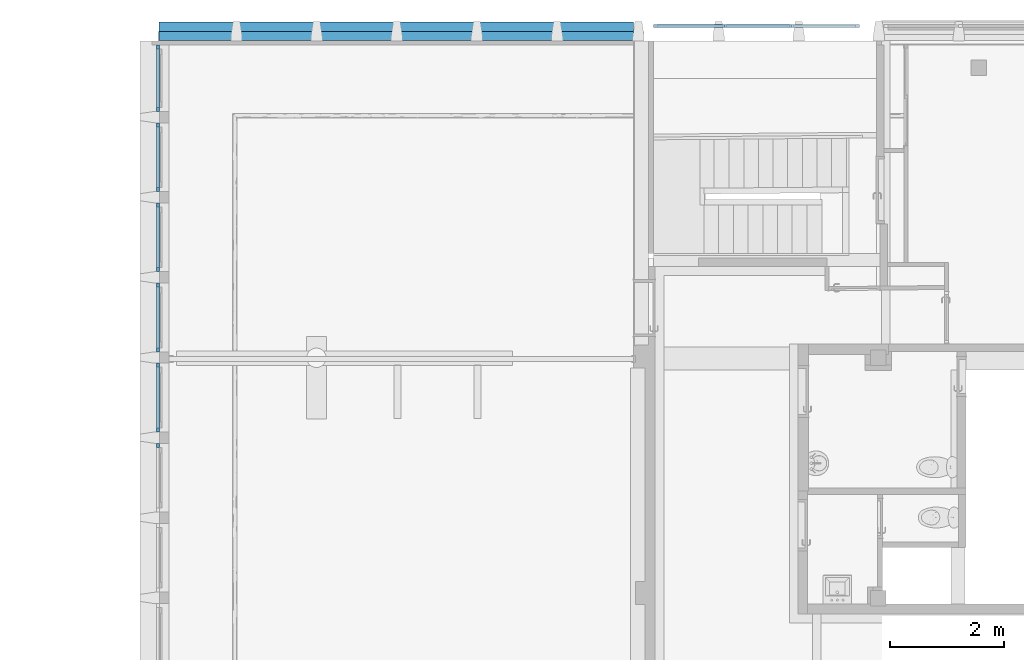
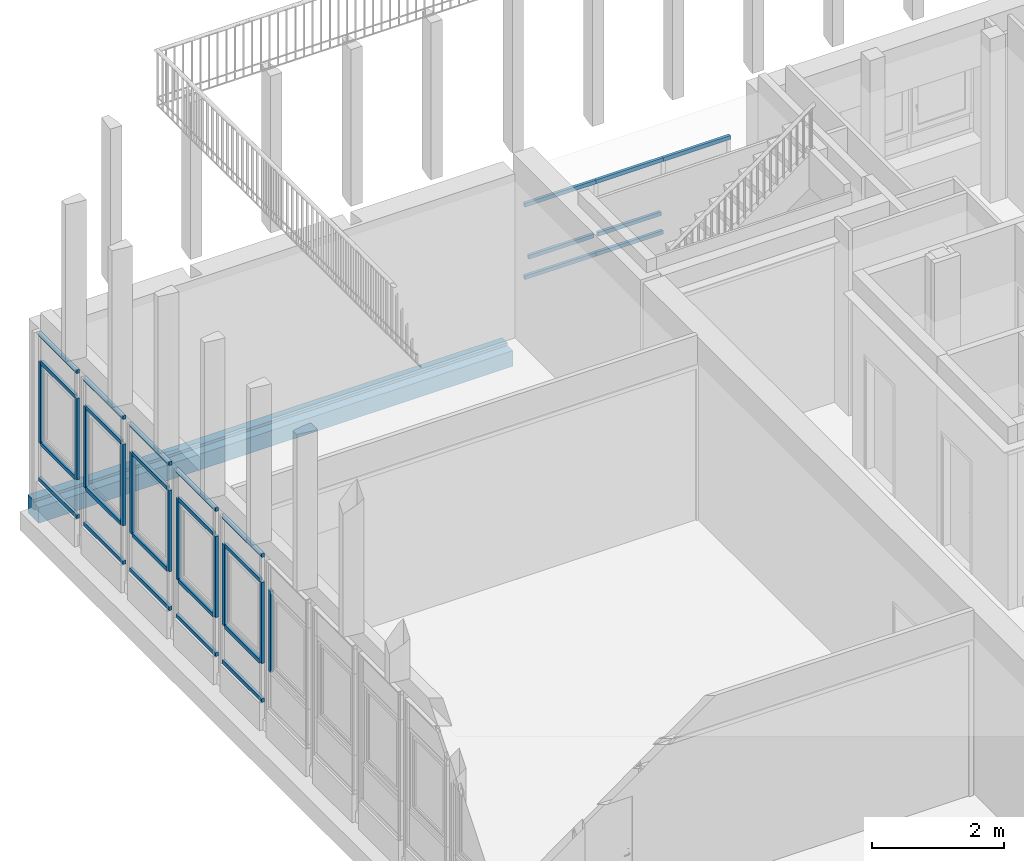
# One storey, part 8 of 65: 38 members, 1 beam, 7 elements without a shape of their own.
"""IFC4 building model written with IfcOpenShell, lengths in metres."""

from ifc_helpers import new_model, entity, si_unit, converted_unit, derived_unit, direction, frame, origin, place, context, subcontext, project, spatial, indexed_curve, outline, extrude, source, transform, mapped, material, type_object, type_shapes, element, aggregate, save


model = new_model("IFC4")

# Units and contexts
model_context = context("Model", 3, precision=1e-05, world=origin(), true_north=direction((6.12303176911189e-17, 1.0)))
body_context = subcontext(model_context, "Body", "Model", "MODEL_VIEW")
ifc_project = project(units=[si_unit("LENGTHUNIT", "METRE"), si_unit("AREAUNIT", "SQUARE_METRE"), si_unit("VOLUMEUNIT", "CUBIC_METRE"), converted_unit("PLANEANGLEUNIT", "DEGREE", entity("IfcRatioMeasure", 0.0174532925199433), si_unit("PLANEANGLEUNIT", "RADIAN"), dimensions=[0, 0, 0, 0, 0, 0, 0]), si_unit("MASSUNIT", "GRAM", prefix="KILO"), derived_unit("MASSDENSITYUNIT", [(si_unit("MASSUNIT", "GRAM", prefix="KILO"), 1), (si_unit("LENGTHUNIT", "METRE"), -3)]), derived_unit("MOMENTOFINERTIAUNIT", [(si_unit("LENGTHUNIT", "METRE"), 4)]), si_unit("TIMEUNIT", "SECOND"), si_unit("FREQUENCYUNIT", "HERTZ"), si_unit("THERMODYNAMICTEMPERATUREUNIT", "DEGREE_CELSIUS"), derived_unit("THERMALTRANSMITTANCEUNIT", [(si_unit("MASSUNIT", "GRAM", prefix="KILO"), 1), (si_unit("THERMODYNAMICTEMPERATUREUNIT", "KELVIN"), -1), (si_unit("TIMEUNIT", "SECOND"), -3)]), derived_unit("VOLUMETRICFLOWRATEUNIT", [(si_unit("LENGTHUNIT", "METRE"), 3), (si_unit("TIMEUNIT", "SECOND"), -1)]), si_unit("ELECTRICCURRENTUNIT", "AMPERE"), si_unit("ELECTRICVOLTAGEUNIT", "VOLT"), si_unit("POWERUNIT", "WATT"), si_unit("FORCEUNIT", "NEWTON", prefix="KILO"), si_unit("ILLUMINANCEUNIT", "LUX"), si_unit("LUMINOUSFLUXUNIT", "LUMEN"), si_unit("LUMINOUSINTENSITYUNIT", "CANDELA"), derived_unit("USERDEFINED", [(si_unit("MASSUNIT", "GRAM", prefix="KILO"), -1), (si_unit("LENGTHUNIT", "METRE"), -2), (si_unit("TIMEUNIT", "SECOND"), 3), (si_unit("LUMINOUSFLUXUNIT", "LUMEN"), 1)]), derived_unit("LINEARVELOCITYUNIT", [(si_unit("LENGTHUNIT", "METRE"), 1), (si_unit("TIMEUNIT", "SECOND"), -1)]), si_unit("PRESSUREUNIT", "PASCAL"), derived_unit("USERDEFINED", [(si_unit("LENGTHUNIT", "METRE"), -2), (si_unit("MASSUNIT", "GRAM", prefix="KILO"), 1), (si_unit("TIMEUNIT", "SECOND"), -2)]), derived_unit("LINEARFORCEUNIT", [(si_unit("MASSUNIT", "GRAM", prefix="KILO"), 1), (si_unit("LENGTHUNIT", "METRE"), 1), (si_unit("TIMEUNIT", "SECOND"), -2), (si_unit("LENGTHUNIT", "METRE"), -1)]), derived_unit("PLANARFORCEUNIT", [(si_unit("MASSUNIT", "GRAM", prefix="KILO"), 1), (si_unit("LENGTHUNIT", "METRE"), 1), (si_unit("TIMEUNIT", "SECOND"), -2), (si_unit("LENGTHUNIT", "METRE"), -2)])], contexts=[model_context])

# Site, building, storey
site_placement = place(None, origin())
site = spatial("IfcSite", under=ifc_project, at=site_placement, Name="Default", CompositionType="ELEMENT")
building_placement = place(site_placement, origin())
building = spatial("IfcBuilding", under=site, at=building_placement, Name="HOTEL CONSULAIRE BOULOGNE SUR MER", CompositionType="ELEMENT")
storey_placement = place(building_placement, origin())
storey = spatial("IfcBuildingStorey", under=building, at=storey_placement, Name="Niveau 0", CompositionType="ELEMENT", Elevation=1.31981936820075e-13)

# Curtain wall, member
curtain_wall_type = type_object("IfcCurtainWallType", Name="Mur-rideau:Simple panneau", PredefinedType="NOTDEFINED")
curtain_wall_1_placement = place(storey_placement, origin())
curtain_wall_1 = element("IfcCurtainWall", 1, at=curtain_wall_1_placement, inside=storey, type_object=curtain_wall_type, Name="Mur-rideau:Simple panneau", ObjectType="Mur-rideau:Simple panneau", PredefinedType="NOTDEFINED")
ifc_material_1 = material(Name="PVC - Blanc", Category="Plastique")
member_type_1 = type_object("IfcMemberType", Name="Meneau rectangulaire:50 x 35", PredefinedType="MULLION", material=ifc_material_1)
shared_shape_1 = source(origin(), body_context, "Body", "SweptSolid", [
    extrude(outline(indexed_curve([(-0.025, -0.035), (0.025, -0.035), (0.025, 0.035), (-0.025, 0.035), (-0.025, -0.035)], self_intersect=False)), frame((-0.035, -0.025, -1.504), z_axis=(0.0, 0.0, 1.0), x_axis=(0.0, -1.0, 0.0)), (0.0, 0.0, 1.0), 1.504),
])
type_shapes(member_type_1, [shared_shape_1])
member_1_placement = place(storey_placement, frame((-13.7900998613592, -17.1114499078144, 1.0069999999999), z_axis=(0.0, 0.0, -1.0), x_axis=(0.0, 1.0, 0.0)))
member_1 = element("IfcMember", 2, at=member_1_placement, type_object=member_type_1, material=ifc_material_1, Name="Meneau rectangulaire:50 x 35", ObjectType="Meneau rectangulaire:50 x 35", PredefinedType="MULLION", context=body_context, shape_type="MappedRepresentation", body=[
    mapped(shared_shape_1, transform((0.0, 0.0, 0.0), scale=1.0)),
])
aggregate(curtain_wall_1, [member_1])

curtain_wall_2_placement = place(storey_placement, origin())
curtain_wall_2 = element("IfcCurtainWall", 3, at=curtain_wall_2_placement, inside=storey, type_object=curtain_wall_type, Name="Mur-rideau:Simple panneau", ObjectType="Mur-rideau:Simple panneau", PredefinedType="NOTDEFINED")
member_2_placement = place(storey_placement, frame((-13.7900998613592, -15.7114499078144, 1.0069999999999), z_axis=(0.0, 0.0, -1.0), x_axis=(0.0, 1.0, 0.0)))
member_2 = element("IfcMember", 4, at=member_2_placement, type_object=member_type_1, material=ifc_material_1, Name="Meneau rectangulaire:50 x 35", ObjectType="Meneau rectangulaire:50 x 35", PredefinedType="MULLION", context=body_context, shape_type="MappedRepresentation", body=[
    mapped(shared_shape_1, transform((0.0, 0.0, 0.0), scale=1.0)),
])

curtain_wall_3_placement = place(storey_placement, origin())
curtain_wall_3 = element("IfcCurtainWall", 5, at=curtain_wall_3_placement, inside=storey, type_object=curtain_wall_type, Name="Mur-rideau:Simple panneau", ObjectType="Mur-rideau:Simple panneau", PredefinedType="NOTDEFINED")
member_3_placement = place(storey_placement, frame((-13.7900998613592, -14.3114499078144, 1.0069999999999), z_axis=(0.0, 0.0, -1.0), x_axis=(0.0, 1.0, 0.0)))
member_3 = element("IfcMember", 6, at=member_3_placement, type_object=member_type_1, material=ifc_material_1, Name="Meneau rectangulaire:50 x 35", ObjectType="Meneau rectangulaire:50 x 35", PredefinedType="MULLION", context=body_context, shape_type="MappedRepresentation", body=[
    mapped(shared_shape_1, transform((0.0, 0.0, 0.0), scale=1.0)),
])

curtain_wall_4_placement = place(storey_placement, origin())
curtain_wall_4 = element("IfcCurtainWall", 7, at=curtain_wall_4_placement, inside=storey, type_object=curtain_wall_type, Name="Mur-rideau:Simple panneau", ObjectType="Mur-rideau:Simple panneau", PredefinedType="NOTDEFINED")
member_4_placement = place(storey_placement, frame((-13.7900998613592, -12.9114499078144, 1.0069999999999), z_axis=(0.0, 0.0, -1.0), x_axis=(0.0, 1.0, 0.0)))
member_4 = element("IfcMember", 8, at=member_4_placement, type_object=member_type_1, material=ifc_material_1, Name="Meneau rectangulaire:50 x 35", ObjectType="Meneau rectangulaire:50 x 35", PredefinedType="MULLION", context=body_context, shape_type="MappedRepresentation", body=[
    mapped(shared_shape_1, transform((0.0, 0.0, 0.0), scale=1.0)),
])

curtain_wall_5_placement = place(storey_placement, origin())
curtain_wall_5 = element("IfcCurtainWall", 9, at=curtain_wall_5_placement, inside=storey, type_object=curtain_wall_type, Name="Mur-rideau:Simple panneau", ObjectType="Mur-rideau:Simple panneau", PredefinedType="NOTDEFINED")
member_5_placement = place(storey_placement, frame((-13.7900998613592, -11.5114499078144, 1.0069999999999), z_axis=(0.0, 0.0, -1.0), x_axis=(0.0, 1.0, 0.0)))
member_5 = element("IfcMember", 10, at=member_5_placement, type_object=member_type_1, material=ifc_material_1, Name="Meneau rectangulaire:50 x 35", ObjectType="Meneau rectangulaire:50 x 35", PredefinedType="MULLION", context=body_context, shape_type="MappedRepresentation", body=[
    mapped(shared_shape_1, transform((0.0, 0.0, 0.0), scale=1.0)),
])

curtain_wall_6_placement = place(storey_placement, origin())
curtain_wall_6 = element("IfcCurtainWall", 11, at=curtain_wall_6_placement, inside=storey, type_object=curtain_wall_type, Name="Mur-rideau:Simple panneau", ObjectType="Mur-rideau:Simple panneau", PredefinedType="NOTDEFINED")
member_6_placement = place(storey_placement, frame((-13.7900998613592, -10.1503241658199, 1.0069999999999), z_axis=(0.0, 0.0, -1.0), x_axis=(0.0, 1.0, 0.0)))
member_6 = element("IfcMember", 12, at=member_6_placement, type_object=member_type_1, material=ifc_material_1, Name="Meneau rectangulaire:50 x 35", ObjectType="Meneau rectangulaire:50 x 35", PredefinedType="MULLION", context=body_context, shape_type="MappedRepresentation", body=[
    mapped(shared_shape_1, transform((0.0, 0.0, 0.0), scale=1.0)),
])

# Member
member_type_2 = type_object("IfcMemberType", Name="Meneau rectangulaire:50 x 35", PredefinedType="MULLION", material=ifc_material_1)
shared_shape_2 = source(origin(), body_context, "Body", "SweptSolid", [
    extrude(outline(indexed_curve([(-0.025, -0.035), (0.025, -0.035), (0.025, 0.035), (-0.025, 0.035), (-0.025, -0.035)], self_intersect=False)), frame((-0.035, -0.025, -1.504), z_axis=(0.0, 0.0, 1.0), x_axis=(0.0, -1.0, 0.0)), (0.0, 0.0, 1.0), 1.504),
])
type_shapes(member_type_2, [shared_shape_2])
member_7_placement = place(storey_placement, frame((-13.7900998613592, -16.9114499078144, 2.5109999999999), z_axis=(0.0, 0.0, 1.0), x_axis=(0.0, -1.0, 0.0)))
member_7 = element("IfcMember", 13, at=member_7_placement, type_object=member_type_2, material=ifc_material_1, Name="Meneau rectangulaire:50 x 35", ObjectType="Meneau rectangulaire:50 x 35", PredefinedType="MULLION", context=body_context, shape_type="MappedRepresentation", body=[
    mapped(shared_shape_2, transform((0.0, 0.0, 0.0), scale=1.0)),
])

member_8_placement = place(storey_placement, frame((-13.7900998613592, -15.5114499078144, 2.5109999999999), z_axis=(0.0, 0.0, 1.0), x_axis=(0.0, -1.0, 0.0)))
member_8 = element("IfcMember", 14, at=member_8_placement, type_object=member_type_2, material=ifc_material_1, Name="Meneau rectangulaire:50 x 35", ObjectType="Meneau rectangulaire:50 x 35", PredefinedType="MULLION", context=body_context, shape_type="MappedRepresentation", body=[
    mapped(shared_shape_2, transform((0.0, 0.0, 0.0), scale=1.0)),
])

member_9_placement = place(storey_placement, frame((-13.7900998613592, -14.1114499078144, 2.5109999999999), z_axis=(0.0, 0.0, 1.0), x_axis=(0.0, -1.0, 0.0)))
member_9 = element("IfcMember", 15, at=member_9_placement, type_object=member_type_2, material=ifc_material_1, Name="Meneau rectangulaire:50 x 35", ObjectType="Meneau rectangulaire:50 x 35", PredefinedType="MULLION", context=body_context, shape_type="MappedRepresentation", body=[
    mapped(shared_shape_2, transform((0.0, 0.0, 0.0), scale=1.0)),
])

member_10_placement = place(storey_placement, frame((-13.7900998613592, -12.7114499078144, 2.5109999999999), z_axis=(0.0, 0.0, 1.0), x_axis=(0.0, -1.0, 0.0)))
member_10 = element("IfcMember", 16, at=member_10_placement, type_object=member_type_2, material=ifc_material_1, Name="Meneau rectangulaire:50 x 35", ObjectType="Meneau rectangulaire:50 x 35", PredefinedType="MULLION", context=body_context, shape_type="MappedRepresentation", body=[
    mapped(shared_shape_2, transform((0.0, 0.0, 0.0), scale=1.0)),
])

member_11_placement = place(storey_placement, frame((-13.7900998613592, -11.3114499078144, 2.5109999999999), z_axis=(0.0, 0.0, 1.0), x_axis=(0.0, -1.0, 0.0)))
member_11 = element("IfcMember", 17, at=member_11_placement, type_object=member_type_2, material=ifc_material_1, Name="Meneau rectangulaire:50 x 35", ObjectType="Meneau rectangulaire:50 x 35", PredefinedType="MULLION", context=body_context, shape_type="MappedRepresentation", body=[
    mapped(shared_shape_2, transform((0.0, 0.0, 0.0), scale=1.0)),
])

member_type_3 = type_object("IfcMemberType", Name="Meneau rectangulaire:50 x 35", PredefinedType="MULLION", material=ifc_material_1)
shared_shape_3 = source(origin(), body_context, "Body", "SweptSolid", [
    extrude(outline(indexed_curve([(-0.025, -0.035), (0.025, -0.035), (0.025, 0.035), (-0.025, 0.035), (-0.025, -0.035)], self_intersect=False)), frame((-0.035, -0.025, -1.20000000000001), z_axis=(0.0, 0.0, 1.0), x_axis=(0.0, -1.0, 0.0)), (0.0, 0.0, 1.0), 1.20000000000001),
])
type_shapes(member_type_3, [shared_shape_3])
member_12_placement = place(storey_placement, frame((-13.7900998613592, -15.7114499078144, 3.03999999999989), z_axis=(0.0, 1.0, 0.0), x_axis=(0.0, 0.0, 1.0)))
member_12 = element("IfcMember", 18, at=member_12_placement, type_object=member_type_3, material=ifc_material_1, Name="Meneau rectangulaire:50 x 35", ObjectType="Meneau rectangulaire:50 x 35", PredefinedType="MULLION", context=body_context, shape_type="MappedRepresentation", body=[
    mapped(shared_shape_3, transform((0.0, 0.0, 0.0), scale=1.0)),
])

member_13_placement = place(storey_placement, frame((-13.7900998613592, -14.3114499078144, 3.03999999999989), z_axis=(0.0, 1.0, 0.0), x_axis=(0.0, 0.0, 1.0)))
member_13 = element("IfcMember", 19, at=member_13_placement, type_object=member_type_3, material=ifc_material_1, Name="Meneau rectangulaire:50 x 35", ObjectType="Meneau rectangulaire:50 x 35", PredefinedType="MULLION", context=body_context, shape_type="MappedRepresentation", body=[
    mapped(shared_shape_3, transform((0.0, 0.0, 0.0), scale=1.0)),
])

member_14_placement = place(storey_placement, frame((-13.7900998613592, -12.9114499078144, 3.03999999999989), z_axis=(0.0, 1.0, 0.0), x_axis=(0.0, 0.0, 1.0)))
member_14 = element("IfcMember", 20, at=member_14_placement, type_object=member_type_3, material=ifc_material_1, Name="Meneau rectangulaire:50 x 35", ObjectType="Meneau rectangulaire:50 x 35", PredefinedType="MULLION", context=body_context, shape_type="MappedRepresentation", body=[
    mapped(shared_shape_3, transform((0.0, 0.0, 0.0), scale=1.0)),
])

member_15_placement = place(storey_placement, frame((-13.7900998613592, -11.5114499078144, 3.03999999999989), z_axis=(0.0, 1.0, 0.0), x_axis=(0.0, 0.0, 1.0)))
member_15 = element("IfcMember", 21, at=member_15_placement, type_object=member_type_3, material=ifc_material_1, Name="Meneau rectangulaire:50 x 35", ObjectType="Meneau rectangulaire:50 x 35", PredefinedType="MULLION", context=body_context, shape_type="MappedRepresentation", body=[
    mapped(shared_shape_3, transform((0.0, 0.0, 0.0), scale=1.0)),
])

member_type_4 = type_object("IfcMemberType", Name="Meneau rectangulaire:50 x 35", PredefinedType="MULLION", material=ifc_material_1)
shared_shape_4 = source(origin(), body_context, "Body", "SweptSolid", [
    extrude(outline(indexed_curve([(-0.025, -0.035), (0.025, -0.035), (0.025, 0.035), (-0.025, 0.035), (-0.025, -0.035)], self_intersect=False)), frame((-0.035, -0.025, -1.20000000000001), z_axis=(0.0, 0.0, 1.0), x_axis=(0.0, -1.0, 0.0)), (0.0, 0.0, 1.0), 1.20000000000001),
])
type_shapes(member_type_4, [shared_shape_4])
member_16_placement = place(storey_placement, frame((-13.7900998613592, -16.9114499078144, 0.289999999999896), z_axis=(0.0, -1.0, 0.0), x_axis=(0.0, 0.0, -1.0)))
member_16 = element("IfcMember", 22, at=member_16_placement, type_object=member_type_4, material=ifc_material_1, Name="Meneau rectangulaire:50 x 35", ObjectType="Meneau rectangulaire:50 x 35", PredefinedType="MULLION", context=body_context, shape_type="MappedRepresentation", body=[
    mapped(shared_shape_4, transform((0.0, 0.0, 0.0), scale=1.0)),
])

member_17_placement = place(storey_placement, frame((-13.7900998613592, -15.5114499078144, 0.289999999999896), z_axis=(0.0, -1.0, 0.0), x_axis=(0.0, 0.0, -1.0)))
member_17 = element("IfcMember", 23, at=member_17_placement, type_object=member_type_4, material=ifc_material_1, Name="Meneau rectangulaire:50 x 35", ObjectType="Meneau rectangulaire:50 x 35", PredefinedType="MULLION", context=body_context, shape_type="MappedRepresentation", body=[
    mapped(shared_shape_4, transform((0.0, 0.0, 0.0), scale=1.0)),
])

member_18_placement = place(storey_placement, frame((-13.7900998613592, -14.1114499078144, 0.289999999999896), z_axis=(0.0, -1.0, 0.0), x_axis=(0.0, 0.0, -1.0)))
member_18 = element("IfcMember", 24, at=member_18_placement, type_object=member_type_4, material=ifc_material_1, Name="Meneau rectangulaire:50 x 35", ObjectType="Meneau rectangulaire:50 x 35", PredefinedType="MULLION", context=body_context, shape_type="MappedRepresentation", body=[
    mapped(shared_shape_4, transform((0.0, 0.0, 0.0), scale=1.0)),
])

member_19_placement = place(storey_placement, frame((-13.7900998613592, -12.7114499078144, 0.289999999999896), z_axis=(0.0, -1.0, 0.0), x_axis=(0.0, 0.0, -1.0)))
member_19 = element("IfcMember", 25, at=member_19_placement, type_object=member_type_4, material=ifc_material_1, Name="Meneau rectangulaire:50 x 35", ObjectType="Meneau rectangulaire:50 x 35", PredefinedType="MULLION", context=body_context, shape_type="MappedRepresentation", body=[
    mapped(shared_shape_4, transform((0.0, 0.0, 0.0), scale=1.0)),
])

member_type_5 = type_object("IfcMemberType", Name="Meneau rectangulaire:50 x 35", PredefinedType="MULLION", material=ifc_material_1)
shared_shape_5 = source(origin(), body_context, "Body", "SweptSolid", [
    extrude(outline(indexed_curve([(-0.025, -0.035), (0.025, -0.035), (0.025, 0.035), (-0.025, 0.035), (-0.025, -0.035)], self_intersect=False)), frame((0.0, -0.025, -1.06000000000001), z_axis=(0.0, 0.0, 1.0), x_axis=(0.0, -1.0, 0.0)), (0.0, 0.0, 1.0), 1.06000000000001),
])
type_shapes(member_type_5, [shared_shape_5])
member_20_placement = place(storey_placement, frame((-13.7900998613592, -15.7814499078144, 1.0069999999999), z_axis=(0.0, 1.0, 0.0), x_axis=(0.0, 0.0, 1.0)))
member_20 = element("IfcMember", 26, at=member_20_placement, type_object=member_type_5, material=ifc_material_1, Name="Meneau rectangulaire:50 x 35", ObjectType="Meneau rectangulaire:50 x 35", PredefinedType="MULLION", context=body_context, shape_type="MappedRepresentation", body=[
    mapped(shared_shape_5, transform((0.0, 0.0, 0.0), scale=1.0)),
])

member_21_placement = place(storey_placement, frame((-13.7900998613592, -15.7814499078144, 2.5109999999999), z_axis=(0.0, 1.0, 0.0), x_axis=(0.0, 0.0, 1.0)))
member_21 = element("IfcMember", 27, at=member_21_placement, type_object=member_type_5, material=ifc_material_1, Name="Meneau rectangulaire:50 x 35", ObjectType="Meneau rectangulaire:50 x 35", PredefinedType="MULLION", context=body_context, shape_type="MappedRepresentation", body=[
    mapped(shared_shape_5, transform((0.0, 0.0, 0.0), scale=1.0)),
])

aggregate(curtain_wall_2, [member_12, member_16, member_20, member_21, member_2, member_7])

member_22_placement = place(storey_placement, frame((-13.7900998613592, -14.3814499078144, 1.0069999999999), z_axis=(0.0, 1.0, 0.0), x_axis=(0.0, 0.0, 1.0)))
member_22 = element("IfcMember", 28, at=member_22_placement, type_object=member_type_5, material=ifc_material_1, Name="Meneau rectangulaire:50 x 35", ObjectType="Meneau rectangulaire:50 x 35", PredefinedType="MULLION", context=body_context, shape_type="MappedRepresentation", body=[
    mapped(shared_shape_5, transform((0.0, 0.0, 0.0), scale=1.0)),
])

member_23_placement = place(storey_placement, frame((-13.7900998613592, -14.3814499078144, 2.5109999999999), z_axis=(0.0, 1.0, 0.0), x_axis=(0.0, 0.0, 1.0)))
member_23 = element("IfcMember", 29, at=member_23_placement, type_object=member_type_5, material=ifc_material_1, Name="Meneau rectangulaire:50 x 35", ObjectType="Meneau rectangulaire:50 x 35", PredefinedType="MULLION", context=body_context, shape_type="MappedRepresentation", body=[
    mapped(shared_shape_5, transform((0.0, 0.0, 0.0), scale=1.0)),
])

aggregate(curtain_wall_3, [member_13, member_17, member_22, member_23, member_3, member_8])

member_24_placement = place(storey_placement, frame((-13.7900998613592, -12.9814499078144, 1.0069999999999), z_axis=(0.0, 1.0, 0.0), x_axis=(0.0, 0.0, 1.0)))
member_24 = element("IfcMember", 30, at=member_24_placement, type_object=member_type_5, material=ifc_material_1, Name="Meneau rectangulaire:50 x 35", ObjectType="Meneau rectangulaire:50 x 35", PredefinedType="MULLION", context=body_context, shape_type="MappedRepresentation", body=[
    mapped(shared_shape_5, transform((0.0, 0.0, 0.0), scale=1.0)),
])

member_25_placement = place(storey_placement, frame((-13.7900998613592, -12.9814499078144, 2.5109999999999), z_axis=(0.0, 1.0, 0.0), x_axis=(0.0, 0.0, 1.0)))
member_25 = element("IfcMember", 31, at=member_25_placement, type_object=member_type_5, material=ifc_material_1, Name="Meneau rectangulaire:50 x 35", ObjectType="Meneau rectangulaire:50 x 35", PredefinedType="MULLION", context=body_context, shape_type="MappedRepresentation", body=[
    mapped(shared_shape_5, transform((0.0, 0.0, 0.0), scale=1.0)),
])

aggregate(curtain_wall_4, [member_14, member_18, member_24, member_25, member_4, member_9])

member_26_placement = place(storey_placement, frame((-13.7900998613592, -11.5814499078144, 1.0069999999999), z_axis=(0.0, 1.0, 0.0), x_axis=(0.0, 0.0, 1.0)))
member_26 = element("IfcMember", 32, at=member_26_placement, type_object=member_type_5, material=ifc_material_1, Name="Meneau rectangulaire:50 x 35", ObjectType="Meneau rectangulaire:50 x 35", PredefinedType="MULLION", context=body_context, shape_type="MappedRepresentation", body=[
    mapped(shared_shape_5, transform((0.0, 0.0, 0.0), scale=1.0)),
])

member_27_placement = place(storey_placement, frame((-13.7900998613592, -11.5814499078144, 2.5109999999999), z_axis=(0.0, 1.0, 0.0), x_axis=(0.0, 0.0, 1.0)))
member_27 = element("IfcMember", 33, at=member_27_placement, type_object=member_type_5, material=ifc_material_1, Name="Meneau rectangulaire:50 x 35", ObjectType="Meneau rectangulaire:50 x 35", PredefinedType="MULLION", context=body_context, shape_type="MappedRepresentation", body=[
    mapped(shared_shape_5, transform((0.0, 0.0, 0.0), scale=1.0)),
])

aggregate(curtain_wall_5, [member_15, member_19, member_26, member_27, member_5, member_10])

member_type_6 = type_object("IfcMemberType", Name="Meneau rectangulaire:50 x 35", PredefinedType="MULLION", material=ifc_material_1)
shared_shape_6 = source(origin(), body_context, "Body", "SweptSolid", [
    extrude(outline(indexed_curve([(-0.025, -0.035), (0.025, -0.035), (0.025, 0.035), (-0.025, 0.035), (-0.025, -0.035)], self_intersect=False)), frame((-0.035, -0.025, -1.16112574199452), z_axis=(0.0, 0.0, 1.0), x_axis=(0.0, -1.0, 0.0)), (0.0, 0.0, 1.0), 1.16112574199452),
])
type_shapes(member_type_6, [shared_shape_6])
member_28_placement = place(storey_placement, frame((-13.7900998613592, -10.1503241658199, 3.03999999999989), z_axis=(0.0, 1.0, 0.0), x_axis=(0.0, 0.0, 1.0)))
member_28 = element("IfcMember", 34, at=member_28_placement, type_object=member_type_6, material=ifc_material_1, Name="Meneau rectangulaire:50 x 35", ObjectType="Meneau rectangulaire:50 x 35", PredefinedType="MULLION", context=body_context, shape_type="MappedRepresentation", body=[
    mapped(shared_shape_6, transform((0.0, 0.0, 0.0), scale=1.0)),
])

member_type_7 = type_object("IfcMemberType", Name="Meneau rectangulaire:50 x 35", PredefinedType="MULLION", material=ifc_material_1)
shared_shape_7 = source(origin(), body_context, "Body", "SweptSolid", [
    extrude(outline(indexed_curve([(-0.025, -0.035), (0.025, -0.035), (0.025, 0.035), (-0.025, 0.035), (-0.025, -0.035)], self_intersect=False)), frame((-0.035, -0.025, -1.16112574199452), z_axis=(0.0, 0.0, 1.0), x_axis=(0.0, -1.0, 0.0)), (0.0, 0.0, 1.0), 1.16112574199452),
])
type_shapes(member_type_7, [shared_shape_7])
member_29_placement = place(storey_placement, frame((-13.7900998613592, -11.3114499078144, 0.289999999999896), z_axis=(0.0, -1.0, 0.0), x_axis=(0.0, 0.0, -1.0)))
member_29 = element("IfcMember", 35, at=member_29_placement, type_object=member_type_7, material=ifc_material_1, Name="Meneau rectangulaire:50 x 35", ObjectType="Meneau rectangulaire:50 x 35", PredefinedType="MULLION", context=body_context, shape_type="MappedRepresentation", body=[
    mapped(shared_shape_7, transform((0.0, 0.0, 0.0), scale=1.0)),
])

member_type_8 = type_object("IfcMemberType", Name="Meneau rectangulaire:50 x 35", PredefinedType="MULLION", material=ifc_material_1)
shared_shape_8 = source(origin(), body_context, "Body", "SweptSolid", [
    extrude(outline(indexed_curve([(-0.025, -0.035), (0.025, -0.035), (0.025, 0.035), (-0.025, 0.035), (-0.025, -0.035)], self_intersect=False)), frame((0.0, -0.025, -1.02112574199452), z_axis=(0.0, 0.0, 1.0), x_axis=(0.0, -1.0, 0.0)), (0.0, 0.0, 1.0), 1.02112574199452),
])
type_shapes(member_type_8, [shared_shape_8])
member_30_placement = place(storey_placement, frame((-13.7900998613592, -10.2203241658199, 1.0069999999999), z_axis=(0.0, 1.0, 0.0), x_axis=(0.0, 0.0, 1.0)))
member_30 = element("IfcMember", 36, at=member_30_placement, type_object=member_type_8, material=ifc_material_1, Name="Meneau rectangulaire:50 x 35", ObjectType="Meneau rectangulaire:50 x 35", PredefinedType="MULLION", context=body_context, shape_type="MappedRepresentation", body=[
    mapped(shared_shape_8, transform((0.0, 0.0, 0.0), scale=1.0)),
])

member_31_placement = place(storey_placement, frame((-13.7900998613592, -10.2203241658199, 2.5109999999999), z_axis=(0.0, 1.0, 0.0), x_axis=(0.0, 0.0, 1.0)))
member_31 = element("IfcMember", 37, at=member_31_placement, type_object=member_type_8, material=ifc_material_1, Name="Meneau rectangulaire:50 x 35", ObjectType="Meneau rectangulaire:50 x 35", PredefinedType="MULLION", context=body_context, shape_type="MappedRepresentation", body=[
    mapped(shared_shape_8, transform((0.0, 0.0, 0.0), scale=1.0)),
])

aggregate(curtain_wall_6, [member_28, member_29, member_30, member_31, member_6, member_11])

# Beam
ifc_material_2 = material(Name="Béton - Béton coulé sur place", Category="Béton")
beam_type = type_object("IfcBeamType", Name="Poutre rectangulaire - Béton:320x340", PredefinedType="BEAM", material=ifc_material_2)
shared_shape_9 = source(origin(), body_context, "Body", "SweptSolid", [
    extrude(outline(indexed_curve([(-0.0800000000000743, -0.159999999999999), (0.210000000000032, -0.159999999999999), (0.210000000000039, 0.16), (-0.129999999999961, 0.160000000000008), (-0.129999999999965, 7.24400769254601e-15), (-0.0800000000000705, 6.12380031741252e-15), (-0.0800000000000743, -0.159999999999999)], self_intersect=False)), frame((-13.7939806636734, -9.91463235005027, -0.349999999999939), z_axis=(1.0, 0.0, 0.0), x_axis=(0.0, 0.0, -1.0)), (0.0, 0.0, 1.0), 8.29),
])
type_shapes(beam_type, [shared_shape_9])
beam_placement = place(storey_placement, origin())
element("IfcBeam", 38, at=beam_placement, inside=storey, type_object=beam_type, material=ifc_material_2, Name="Poutre rectangulaire - Béton:320x340", ObjectType="Poutre rectangulaire - Béton:320x340", PredefinedType="BEAM", context=body_context, shape_type="MappedRepresentation", body=[
    mapped(shared_shape_9, transform((0.0, 0.0, 0.0), scale=1.0)),
])

# Curtain wall, members
curtain_wall_7_placement = place(storey_placement, origin())
curtain_wall_7 = element("IfcCurtainWall", 39, at=curtain_wall_7_placement, inside=storey, type_object=curtain_wall_type, Name="Mur-rideau:Simple panneau", ObjectType="Mur-rideau:Simple panneau", PredefinedType="NOTDEFINED")
member_type_9 = type_object("IfcMemberType", Name="Meneau rectangulaire:50 x 35", PredefinedType="MULLION", material=ifc_material_1)
shared_shape_10 = source(origin(), body_context, "Body", "SweptSolid", [
    extrude(outline(indexed_curve([(-0.025, -0.035), (0.025, -0.035), (0.025, 0.035), (-0.025, 0.035), (-0.025, -0.035)], self_intersect=False)), frame((-0.035, -0.025, -1.18132801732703), z_axis=(0.0, 0.0, 1.0), x_axis=(0.0, -1.0, 0.0)), (0.0, 0.0, 1.0), 1.18132801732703),
])
type_shapes(member_type_9, [shared_shape_10])
member_32_placement = place(storey_placement, frame((-1.56182130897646, -9.84832416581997, 2.19099999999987), z_axis=(1.0, 0.0, 0.0), x_axis=(0.0, 0.0, 1.0)))
member_32 = element("IfcMember", 40, at=member_32_placement, type_object=member_type_9, material=ifc_material_1, Name="Meneau rectangulaire:50 x 35", ObjectType="Meneau rectangulaire:50 x 35", PredefinedType="MULLION", context=body_context, shape_type="MappedRepresentation", body=[
    mapped(shared_shape_10, transform((0.0, 0.0, 0.0), scale=1.0)),
])
member_type_10 = type_object("IfcMemberType", Name="Meneau rectangulaire:50 x 35", PredefinedType="MULLION", material=ifc_material_1)
shared_shape_11 = source(origin(), body_context, "Body", "SweptSolid", [
    extrude(outline(indexed_curve([(-0.025, -0.035), (0.025, -0.035), (0.025, 0.035), (-0.025, 0.035), (-0.025, -0.035)], self_intersect=False)), frame((-0.035, -0.025, -1.24173111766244), z_axis=(0.0, 0.0, 1.0), x_axis=(0.0, -1.0, 0.0)), (0.0, 0.0, 1.0), 1.24173111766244),
])
type_shapes(member_type_10, [shared_shape_11])
member_33_placement = place(storey_placement, frame((-5.15977317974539, -9.84832416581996, 0.779733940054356), z_axis=(-1.0, 0.0, 0.0), x_axis=(0.0, 0.0, -1.0)))
member_33 = element("IfcMember", 41, at=member_33_placement, type_object=member_type_10, material=ifc_material_1, Name="Meneau rectangulaire:50 x 35", ObjectType="Meneau rectangulaire:50 x 35", PredefinedType="MULLION", context=body_context, shape_type="MappedRepresentation", body=[
    mapped(shared_shape_11, transform((0.0, 0.0, 0.0), scale=1.0)),
])
member_type_11 = type_object("IfcMemberType", Name="Meneau rectangulaire:50 x 35", PredefinedType="MULLION", material=ifc_material_1)
shared_shape_12 = source(origin(), body_context, "Body", "SweptSolid", [
    extrude(outline(indexed_curve([(-0.025, -0.035), (0.025, -0.035), (0.025, 0.035), (-0.025, 0.035), (-0.025, -0.035)], self_intersect=False)), frame((0.0, -0.025, -1.13673111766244), z_axis=(0.0, 0.0, 1.0), x_axis=(0.0, -1.0, 0.0)), (0.0, 0.0, 1.0), 1.13673111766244),
])
type_shapes(member_type_11, [shared_shape_12])
member_34_placement = place(storey_placement, frame((-3.95304206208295, -9.84832416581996, 1.16973394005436), z_axis=(1.0, 0.0, 0.0), x_axis=(0.0, 0.0, 1.0)))
member_34 = element("IfcMember", 42, at=member_34_placement, type_object=member_type_11, material=ifc_material_1, Name="Meneau rectangulaire:50 x 35", ObjectType="Meneau rectangulaire:50 x 35", PredefinedType="MULLION", context=body_context, shape_type="MappedRepresentation", body=[
    mapped(shared_shape_12, transform((0.0, 0.0, 0.0), scale=1.0)),
])
member_type_12 = type_object("IfcMemberType", Name="Meneau rectangulaire:50 x 35", PredefinedType="MULLION", material=ifc_material_1)
shared_shape_13 = source(origin(), body_context, "Body", "SweptSolid", [
    extrude(outline(indexed_curve([(-0.025, -0.035), (0.025, -0.035), (0.025, 0.035), (-0.025, 0.035), (-0.025, -0.035)], self_intersect=False)), frame((0.0, -0.025, -1.10489273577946), z_axis=(0.0, 0.0, 1.0), x_axis=(0.0, -1.0, 0.0)), (0.0, 0.0, 1.0), 1.10489273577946),
])
type_shapes(member_type_12, [shared_shape_13])
member_35_placement = place(storey_placement, frame((-2.77814932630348, -9.84832416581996, 1.16973394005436), z_axis=(1.0, 0.0, 0.0), x_axis=(0.0, 0.0, 1.0)))
member_35 = element("IfcMember", 43, at=member_35_placement, type_object=member_type_12, material=ifc_material_1, Name="Meneau rectangulaire:50 x 35", ObjectType="Meneau rectangulaire:50 x 35", PredefinedType="MULLION", context=body_context, shape_type="MappedRepresentation", body=[
    mapped(shared_shape_13, transform((0.0, 0.0, 0.0), scale=1.0)),
])
member_type_13 = type_object("IfcMemberType", Name="Meneau rectangulaire:50 x 35", PredefinedType="MULLION", material=ifc_material_1)
shared_shape_14 = source(origin(), body_context, "Body", "SweptSolid", [
    extrude(outline(indexed_curve([(-0.025, -0.035), (0.025, -0.035), (0.025, 0.035), (-0.025, 0.035), (-0.025, -0.035)], self_intersect=False)), frame((-0.035, -0.025, -1.17489273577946), z_axis=(0.0, 0.0, 1.0), x_axis=(0.0, -1.0, 0.0)), (0.0, 0.0, 1.0), 1.17489273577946),
])
type_shapes(member_type_13, [shared_shape_14])
member_36_placement = place(storey_placement, frame((-3.91804206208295, -9.84832416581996, 0.779733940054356), z_axis=(-1.0, 0.0, 0.0), x_axis=(0.0, 0.0, -1.0)))
member_36 = element("IfcMember", 44, at=member_36_placement, type_object=member_type_13, material=ifc_material_1, Name="Meneau rectangulaire:50 x 35", ObjectType="Meneau rectangulaire:50 x 35", PredefinedType="MULLION", context=body_context, shape_type="MappedRepresentation", body=[
    mapped(shared_shape_14, transform((0.0, 0.0, 0.0), scale=1.0)),
])
member_type_14 = type_object("IfcMemberType", Name="Meneau rectangulaire:50 x 35", PredefinedType="MULLION", material=ifc_material_1)
shared_shape_15 = source(origin(), body_context, "Body", "SweptSolid", [
    extrude(outline(indexed_curve([(-0.025, -0.035), (0.025, -0.035), (0.025, 0.035), (-0.025, 0.035), (-0.025, -0.035)], self_intersect=False)), frame((-0.035, -0.025, -1.17489273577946), z_axis=(0.0, 0.0, 1.0), x_axis=(0.0, -1.0, 0.0)), (0.0, 0.0, 1.0), 1.17489273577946),
])
type_shapes(member_type_14, [shared_shape_15])
member_37_placement = place(storey_placement, frame((-2.74314932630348, -9.84832416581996, 2.19099999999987), z_axis=(1.0, 0.0, 0.0), x_axis=(0.0, 0.0, 1.0)))
member_37 = element("IfcMember", 45, at=member_37_placement, type_object=member_type_14, material=ifc_material_1, Name="Meneau rectangulaire:50 x 35", ObjectType="Meneau rectangulaire:50 x 35", PredefinedType="MULLION", context=body_context, shape_type="MappedRepresentation", body=[
    mapped(shared_shape_15, transform((0.0, 0.0, 0.0), scale=1.0)),
])
member_type_15 = type_object("IfcMemberType", Name="Meneau rectangulaire:50 x 35", PredefinedType="MULLION", material=ifc_material_1)
shared_shape_16 = source(origin(), body_context, "Body", "SweptSolid", [
    extrude(outline(indexed_curve([(-0.025, -0.035), (0.025, -0.035), (0.025, 0.035), (-0.025, 0.035), (-0.025, -0.035)], self_intersect=False)), frame((-0.035, -0.025, -1.24173111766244), z_axis=(0.0, 0.0, 1.0), x_axis=(0.0, -1.0, 0.0)), (0.0, 0.0, 1.0), 1.24173111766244),
])
type_shapes(member_type_15, [shared_shape_16])
member_38_placement = place(storey_placement, frame((-3.91804206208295, -9.84832416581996, 2.19099999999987), z_axis=(1.0, 0.0, 0.0), x_axis=(0.0, 0.0, 1.0)))
member_38 = element("IfcMember", 46, at=member_38_placement, type_object=member_type_15, material=ifc_material_1, Name="Meneau rectangulaire:50 x 35", ObjectType="Meneau rectangulaire:50 x 35", PredefinedType="MULLION", context=body_context, shape_type="MappedRepresentation", body=[
    mapped(shared_shape_16, transform((0.0, 0.0, 0.0), scale=1.0)),
])
aggregate(curtain_wall_7, [member_32, member_33, member_34, member_35, member_36, member_37, member_38])

save(model, "model.ifc")
